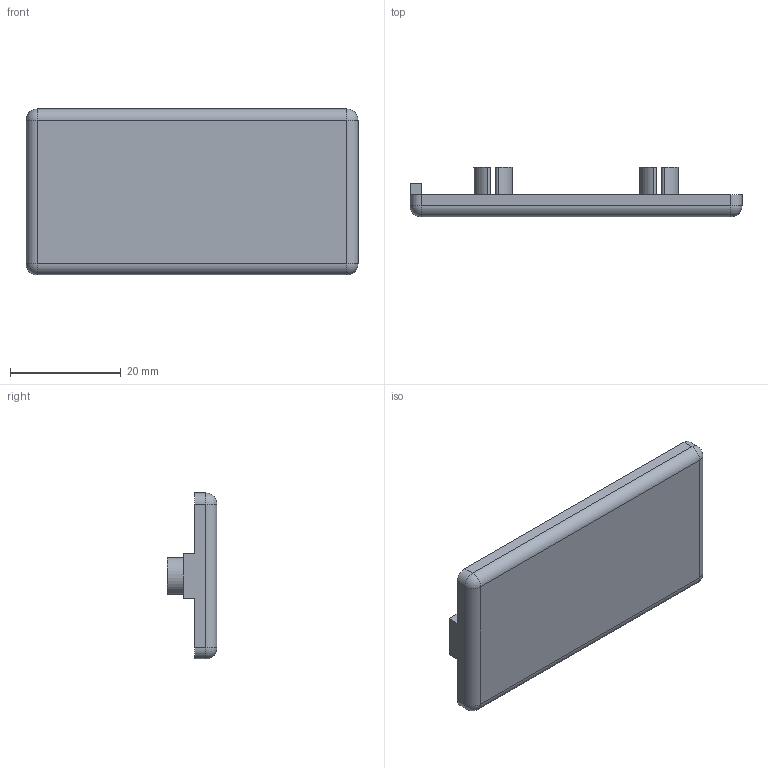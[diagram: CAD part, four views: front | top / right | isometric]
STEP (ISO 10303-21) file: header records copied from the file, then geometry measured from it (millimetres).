
FILE_DESCRIPTION (( 'STEP AP214' ), '1' );
FILE_NAME ('4008.STEP', '2017-08-10T06:14:42', ( '' ), ( '' ), 'SwSTEP 2.0', 'SolidWorks 2014', '' );
FILE_SCHEMA (( 'AUTOMOTIVE_DESIGN' ));
Length unit declared in the file: millimetre
Products named in the file (2): 4008
Bounding box: 60 x 9 x 30 mm (x, y, z)
Volume: 4395.6 mm3; surface area: 5014.7 mm2
Topology: 1 solids, 1 shells, 70 faces, 184 edges, 116 vertices
Faces by surface type: cylinder 40, plane 26, sphere 4
Entity records: 2197 total; most frequent: DIRECTION 404, CARTESIAN_POINT 368, ORIENTED_EDGE 360, EDGE_CURVE 180, AXIS2_PLACEMENT_3D 152, VERTEX_POINT 116, LINE 100, VECTOR 100
